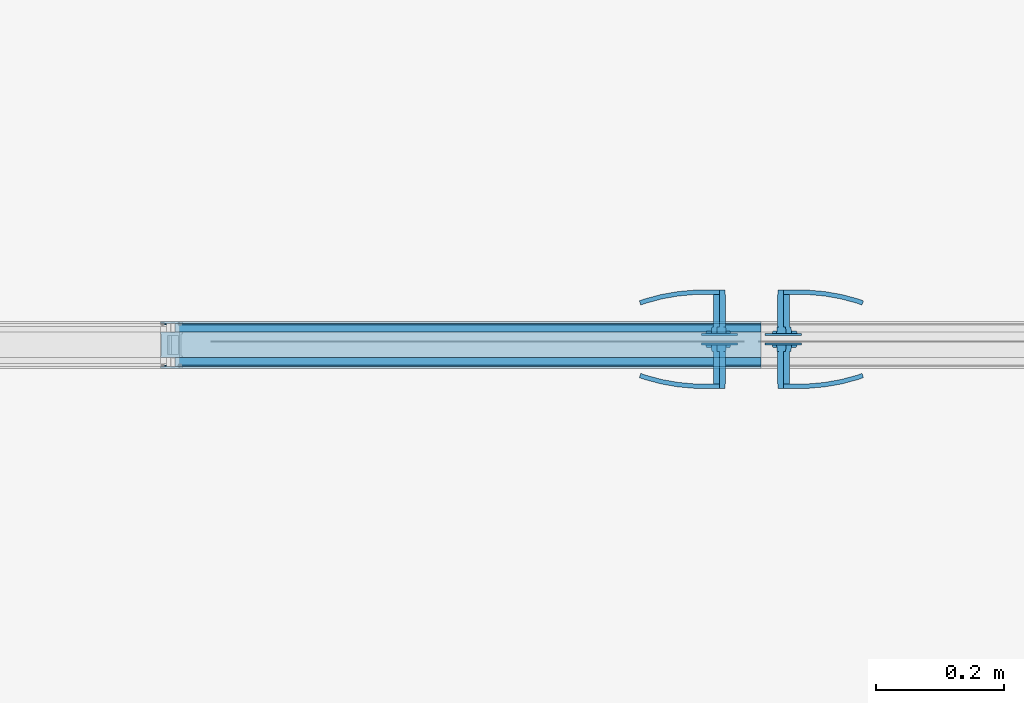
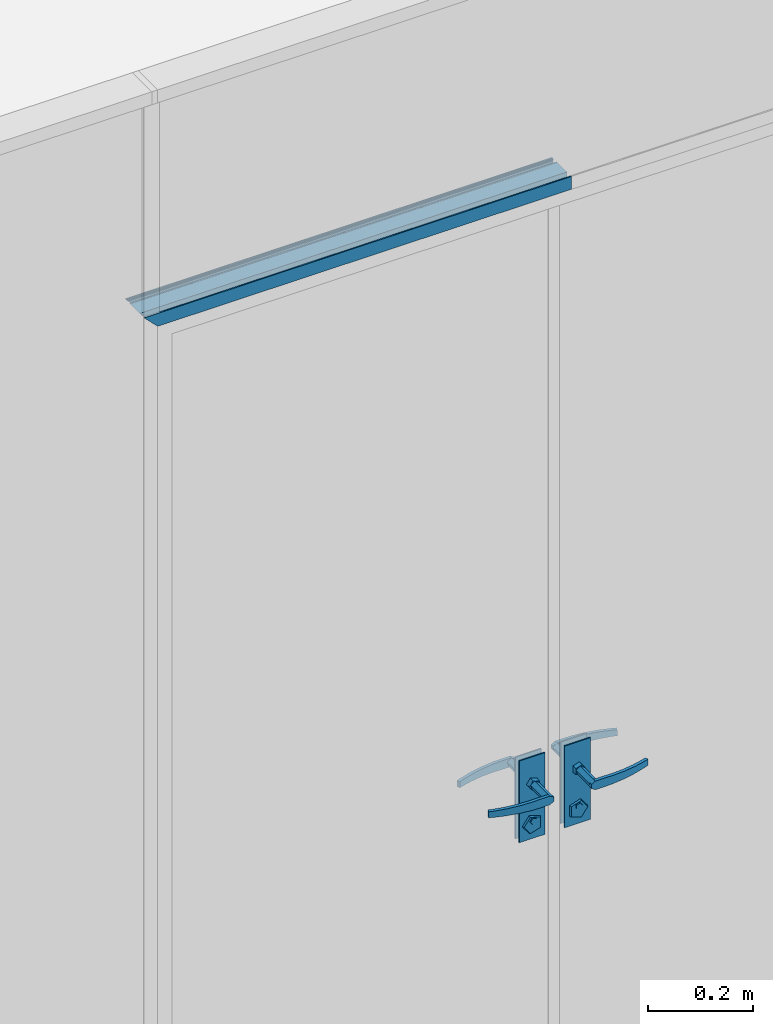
# One storey, part 52 of 62: 3 building element parts, 3 elements without a shape of their own.
"""IFC2X3 building model written with IfcOpenShell, lengths in millimetres."""

from ifc_helpers import new_model, entity, si_unit, converted_unit, derived_unit, money_unit, direction, frame, origin_with_axes, place, context, subcontext, project, spatial, open_shell, faceted_brep, surface_model, material, type_object, element, aggregate, save


model = new_model("IFC2X3")

# Units and contexts
model_context = context("Model", 3, precision=0.01, world=origin_with_axes(), true_north=direction((0.0, 1.0)))
body_context = subcontext(model_context, "Body", "Model", "MODEL_VIEW")
ifc_project = project(units=[si_unit("LENGTHUNIT", "METRE", prefix="MILLI"), si_unit("AREAUNIT", "SQUARE_METRE"), si_unit("VOLUMEUNIT", "CUBIC_METRE"), converted_unit("PLANEANGLEUNIT", "DEGREE", entity("IfcPlaneAngleMeasure", 0.0174532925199), si_unit("PLANEANGLEUNIT", "RADIAN"), dimensions=[0, 0, 0, 0, 0, 0, 0]), si_unit("SOLIDANGLEUNIT", "STERADIAN"), money_unit("EUR"), converted_unit("TIMEUNIT", "Year", entity("IfcTimeMeasure", 31556926.0), si_unit("TIMEUNIT", "SECOND"), dimensions=[0, 0, 1, 0, 0, 0, 0]), si_unit("MASSUNIT", "GRAM", prefix="KILO"), si_unit("THERMODYNAMICTEMPERATUREUNIT", "DEGREE_CELSIUS"), si_unit("LUMINOUSINTENSITYUNIT", "LUMEN"), si_unit("ENERGYUNIT", "JOULE", prefix="MEGA"), derived_unit("THERMALCONDUCTANCEUNIT", [(si_unit("POWERUNIT", "WATT"), 1), (si_unit("LENGTHUNIT", "METRE"), -1), (si_unit("THERMODYNAMICTEMPERATUREUNIT", "KELVIN"), -1)]), derived_unit("SPECIFICHEATCAPACITYUNIT", [(si_unit("ENERGYUNIT", "JOULE"), 1), (si_unit("MASSUNIT", "GRAM", prefix="KILO"), -1), (si_unit("THERMODYNAMICTEMPERATUREUNIT", "KELVIN"), -1)]), derived_unit("MASSDENSITYUNIT", [(si_unit("MASSUNIT", "GRAM", prefix="KILO"), 1), (si_unit("VOLUMEUNIT", "CUBIC_METRE"), -1)])], contexts=[model_context])

# Site, building, storey
site_placement = place(None, origin_with_axes())
site = spatial("IfcSite", under=ifc_project, at=site_placement, Name="Puškini 31, Narva", CompositionType="ELEMENT")
building_placement = place(site_placement, origin_with_axes())
building = spatial("IfcBuilding", under=site, at=building_placement, Name="Narva Riigigümnaasium", CompositionType="ELEMENT")
storey_placement = place(building_placement, frame((0.0, 0.0, 660.0), z_axis=(0.0, 0.0, 1.0), x_axis=(1.0, 0.0, 0.0)))
storey = spatial("IfcBuildingStorey", under=building, at=storey_placement, Name="2.korrus +0.66", CompositionType="ELEMENT", Elevation=660.0)

# Curtain wall, plate, building element parts, proxy
curtain_wall_type = type_object("IfcCurtainWallType", Name="Curtain Wall Type", PredefinedType="NOTDEFINED")
curtain_wall_placement = place(storey_placement, frame((41241.6, 223837.000007, -1.99739158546e-06), z_axis=(0.0, 0.0, 1.0), x_axis=(1.0, 0.0, 0.0)))
curtain_wall = element("IfcCurtainWall", 1, at=curtain_wall_placement, inside=storey, type_object=curtain_wall_type, Name="G-SKLF-53")
plate_type = type_object("IfcPlateType", Name="895 x 2365 x 10", PredefinedType="CURTAIN_PANEL")
plate_placement = place(curtain_wall_placement, frame((0.0, 0.0, 1200.0), z_axis=(0.0, 0.0, 1.0), x_axis=(-1.0, 0.0, 0.0)))
plate = element("IfcPlate", 2, at=plate_placement, type_object=plate_type, Name="G-SKLF-53-klaas", ObjectType="CURTAIN_PANEL")
ifc_material_1 = material(Name="ET-07_Teras - Roostevaba")
building_element_part_1_placement = place(plate_placement, origin_with_axes())
building_element_part_1 = element("IfcBuildingElementPart", 3, at=building_element_part_1_placement, material=ifc_material_1, Name="ET-07_Teras - Roostevaba", context=body_context, shape_type="SurfaceModel", body=[
    faceted_brep([(36.5000107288, -2.99999999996, -120.0), (93.5000107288, -2.99999999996, -120.0), (93.5000107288, 0.0, -120.0), (36.5000107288, 0.0, -120.0), (36.5000107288, -2.99999999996, -310.0), (93.5000107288, -2.99999999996, -310.0), (93.5000107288, 0.0, -310.0), (36.5000107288, 0.0, -310.0)], [[[0, 1, 2, 3]], [[0, 4, 5, 1]], [[1, 5, 6, 2]], [[3, 2, 6, 7]], [[4, 0, 3, 7]], [[5, 4, 7, 6]]]),
    surface_model("IfcShellBasedSurfaceModel", [(65.0000107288, 61.0, -190.0), (56.339756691, 61.0, -185.0), (56.339756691, 68.0, -185.0), (65.0000107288, 68.0, -190.0), (90.0000107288, 61.0, -190.0), (90.0000107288, 61.0, -170.0), (65.0000107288, 61.0, -170.0), (56.339756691, 61.0, -175.0), (56.339756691, 68.0, -175.0), (65.0000107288, 68.0, -170.0), (90.0000107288, 68.0, -170.0), (90.0000107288, 68.0, -190.0)], [open_shell([[[0, 1, 2, 3]], [[0, 4, 5, 6, 7, 1]], [[1, 7, 8, 2]], [[3, 2, 8, 9, 10, 11]], [[4, 0, 3, 11]], [[6, 5, 10, 9]], [[7, 6, 9, 8]]])]),
    surface_model("IfcShellBasedSurfaceModel", [(90.0000107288, 61.0, -170.0), (103.098293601, 61.0, -170.392699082), (103.403920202, 68.0, -170.392699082), (90.0000107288, 61.0, -190.0), (103.098293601, 61.0, -189.607300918), (130.109727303, 65.6635446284, -171.178097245), (90.0000107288, 68.0, -170.0), (90.0000107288, 68.0, -190.0), (129.195173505, 58.7168188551, -188.821902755), (129.195173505, 58.7168188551, -171.178097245), (130.109727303, 65.6635446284, -188.821902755), (103.403920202, 68.0, -189.607300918), (154.993754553, 54.1678329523, -188.036504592), (154.993754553, 54.1678329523, -171.963495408), (156.510275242, 61.0084157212, -171.963495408), (156.510275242, 61.0084157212, -188.036504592), (180.297693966, 47.3876628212, -187.251106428), (180.297693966, 47.3876628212, -172.748893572), (182.404639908, 54.0700416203, -172.748893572), (182.404639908, 54.0700416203, -187.251106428), (188.170568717, 44.5221707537, -187.0), (188.170568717, 44.5221707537, -173.0), (190.46121507, 51.1376880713, -173.0), (190.46121507, 51.1376880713, -187.0)], [open_shell([[[0, 1, 2]], [[0, 3, 4, 1]], [[1, 5, 2]], [[0, 2, 6]], [[4, 3, 7]], [[1, 4, 8, 9]], [[1, 9, 5]], [[2, 5, 10, 11]], [[6, 2, 11, 7]], [[4, 7, 11]], [[8, 4, 11]], [[9, 8, 12, 13]], [[9, 14, 5]], [[5, 14, 15, 10]], [[8, 11, 10]], [[12, 8, 10]], [[13, 12, 16, 17]], [[9, 13, 14]], [[14, 18, 19, 15]], [[12, 10, 15]], [[16, 12, 15]], [[17, 16, 20, 21]], [[13, 17, 18]], [[13, 18, 14]], [[18, 22, 23, 19]], [[16, 15, 19]], [[20, 16, 19]], [[21, 20, 23, 22]], [[17, 21, 22]], [[17, 22, 18]], [[20, 19, 23]]])]),
    faceted_brep([(68.7082146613, 10.0, -191.412678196), (77.0000107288, 10.0, -180.0), (78.0000107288, 0.0, -180.0), (69.0172316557, 0.0, -192.363734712), (55.2918067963, 10.0, -187.053423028), (55.2918067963, 10.0, -172.946576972), (68.7082146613, 10.0, -168.587321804), (69.0172316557, 0.0, -167.636265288), (54.482789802, 0.0, -172.35879172), (54.482789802, 0.0, -187.64120828)], [[[0, 1, 2, 3]], [[1, 0, 4, 5, 6]], [[1, 6, 7, 2]], [[2, 7, 8, 9, 3]], [[4, 0, 3, 9]], [[5, 4, 9, 8]], [[6, 5, 8, 7]]]),
    faceted_brep([(71.1803506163, 4.00000000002, -294.021130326), (85.0000107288, 4.00000000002, -275.0), (87.0000107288, 0.0, -275.0), (71.7983846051, 0.0, -295.923243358), (48.8196708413, 4.00000000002, -286.755705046), (48.8196708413, 4.00000000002, -263.244294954), (71.1803506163, 4.00000000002, -255.978869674), (71.7983846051, 0.0, -254.076756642), (47.2016368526, 0.0, -262.06872445), (47.2016368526, 0.0, -287.93127555)], [[[0, 1, 2, 3]], [[1, 0, 4, 5, 6]], [[1, 6, 7, 2]], [[2, 7, 8, 9, 3]], [[4, 0, 3, 9]], [[5, 4, 9, 8]], [[6, 5, 8, 7]]]),
    faceted_brep([(67.1631296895, 6.00000000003, -272.657395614), (72.0000107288, 6.00000000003, -266.0), (73.0000107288, 4.00000000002, -266.0), (67.4721466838, 4.00000000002, -273.60845213), (59.3368917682, 6.00000000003, -270.114496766), (59.3368917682, 6.00000000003, -261.885503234), (67.1631296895, 6.00000000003, -259.342604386), (67.4721466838, 4.00000000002, -258.39154787), (58.5278747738, 4.00000000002, -261.297717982), (58.5278747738, 4.00000000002, -270.702282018)], [[[0, 1, 2, 3]], [[1, 0, 4, 5, 6]], [[1, 6, 7, 2]], [[2, 7, 8, 9, 3]], [[4, 0, 3, 9]], [[5, 4, 9, 8]], [[6, 5, 8, 7]]]),
    faceted_brep([(65.0000107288, 10.0, -170.0), (74.5105758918, 10.0, -176.909830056), (74.5105758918, 61.0, -176.909830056), (65.0000107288, 61.0, -170.0), (55.4894455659, 10.0, -176.909830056), (59.1221582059, 10.0, -188.090169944), (70.8778632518, 10.0, -188.090169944), (70.8778632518, 61.0, -188.090169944), (59.1221582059, 61.0, -188.090169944), (55.4894455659, 61.0, -176.909830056)], [[[0, 1, 2, 3]], [[0, 4, 5, 6, 1]], [[1, 6, 7, 2]], [[3, 2, 7, 8, 9]], [[4, 0, 3, 9]], [[5, 4, 9, 8]], [[6, 5, 8, 7]]]),
    faceted_brep([(36.5000107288, -15.0, -120.0), (36.5000107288, -18.0, -120.0), (93.5000107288, -18.0, -120.0), (93.5000107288, -15.0, -120.0), (36.5000107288, -15.0, -310.0), (36.5000107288, -18.0, -310.0), (93.5000107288, -18.0, -310.0), (93.5000107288, -15.0, -310.0)], [[[0, 1, 2, 3]], [[4, 5, 1, 0]], [[1, 5, 6, 2]], [[3, 2, 6, 7]], [[0, 3, 7, 4]], [[7, 6, 5, 4]]]),
    surface_model("IfcShellBasedSurfaceModel", [(65.0000107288, -79.0, -190.0), (65.0000107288, -86.0, -190.0), (56.339756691, -86.0, -185.0), (56.339756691, -79.0, -185.0), (90.0000107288, -79.0, -190.0), (90.0000107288, -86.0, -190.0), (90.0000107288, -86.0, -170.0), (65.0000107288, -86.0, -170.0), (56.339756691, -86.0, -175.0), (56.339756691, -79.0, -175.0), (65.0000107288, -79.0, -170.0), (90.0000107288, -79.0, -170.0)], [open_shell([[[0, 1, 2, 3]], [[4, 5, 1, 0]], [[1, 5, 6, 7, 8, 2]], [[3, 2, 8, 9]], [[0, 3, 9, 10, 11, 4]], [[10, 7, 6, 11]], [[9, 8, 7, 10]]])]),
    surface_model("IfcShellBasedSurfaceModel", [(90.0000107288, -79.0, -170.0), (103.403920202, -86.0, -170.392699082), (103.098293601, -79.0, -170.392699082), (90.0000107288, -86.0, -170.0), (130.109727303, -83.6635446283, -171.178097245), (103.098293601, -79.0, -189.607300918), (90.0000107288, -79.0, -190.0), (90.0000107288, -86.0, -190.0), (103.403920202, -86.0, -189.607300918), (130.109727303, -83.6635446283, -188.821902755), (129.195173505, -76.716818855, -171.178097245), (129.195173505, -76.716818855, -188.821902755), (156.510275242, -79.0084157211, -188.036504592), (156.510275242, -79.0084157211, -171.963495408), (154.993754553, -72.1678329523, -171.963495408), (154.993754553, -72.1678329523, -188.036504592), (182.404639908, -72.0700416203, -187.251106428), (182.404639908, -72.0700416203, -172.748893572), (180.297693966, -65.3876628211, -172.748893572), (180.297693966, -65.3876628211, -187.251106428), (190.46121507, -69.1376880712, -187.0), (190.46121507, -69.1376880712, -173.0), (188.170568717, -62.5221707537, -173.0), (188.170568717, -62.5221707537, -187.0)], [open_shell([[[0, 1, 2]], [[0, 3, 1]], [[2, 1, 4]], [[0, 2, 5, 6]], [[3, 7, 8, 1]], [[1, 8, 9, 4]], [[2, 4, 10]], [[2, 10, 11, 5]], [[5, 7, 6]], [[5, 8, 7]], [[11, 9, 8]], [[4, 9, 12, 13]], [[10, 4, 13]], [[10, 14, 15, 11]], [[11, 8, 5]], [[15, 9, 11]], [[15, 12, 9]], [[13, 12, 16, 17]], [[10, 13, 14]], [[14, 18, 19, 15]], [[19, 12, 15]], [[19, 16, 12]], [[17, 16, 20, 21]], [[14, 13, 17]], [[14, 17, 18]], [[18, 22, 23, 19]], [[23, 16, 19]], [[23, 20, 16]], [[22, 21, 20, 23]], [[18, 17, 21]], [[18, 21, 22]]])]),
    faceted_brep([(68.7082146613, -28.0, -191.412678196), (69.0172316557, -18.0, -192.363734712), (78.0000107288, -18.0, -180.0), (77.0000107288, -28.0, -180.0), (55.2918067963, -28.0, -187.053423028), (54.482789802, -18.0, -187.64120828), (54.482789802, -18.0, -172.35879172), (69.0172316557, -18.0, -167.636265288), (68.7082146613, -28.0, -168.587321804), (55.2918067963, -28.0, -172.946576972)], [[[0, 1, 2, 3]], [[4, 5, 1, 0]], [[2, 1, 5, 6, 7]], [[3, 2, 7, 8]], [[3, 8, 9, 4, 0]], [[9, 6, 5, 4]], [[8, 7, 6, 9]]]),
    faceted_brep([(71.1803506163, -22.0, -294.021130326), (71.7983846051, -18.0, -295.923243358), (87.0000107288, -18.0, -275.0), (85.0000107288, -22.0, -275.0), (48.8196708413, -22.0, -286.755705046), (47.2016368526, -18.0, -287.93127555), (47.2016368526, -18.0, -262.06872445), (71.7983846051, -18.0, -254.076756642), (71.1803506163, -22.0, -255.978869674), (48.8196708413, -22.0, -263.244294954)], [[[0, 1, 2, 3]], [[4, 5, 1, 0]], [[2, 1, 5, 6, 7]], [[3, 2, 7, 8]], [[3, 8, 9, 4, 0]], [[9, 6, 5, 4]], [[8, 7, 6, 9]]]),
    faceted_brep([(67.1631296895, -24.0, -272.657395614), (67.4721466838, -22.0, -273.60845213), (73.0000107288, -22.0, -266.0), (72.0000107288, -24.0, -266.0), (59.3368917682, -24.0, -270.114496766), (58.5278747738, -22.0, -270.702282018), (58.5278747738, -22.0, -261.297717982), (67.4721466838, -22.0, -258.39154787), (67.1631296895, -24.0, -259.342604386), (59.3368917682, -24.0, -261.885503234)], [[[0, 1, 2, 3]], [[4, 5, 1, 0]], [[2, 1, 5, 6, 7]], [[3, 2, 7, 8]], [[3, 8, 9, 4, 0]], [[9, 6, 5, 4]], [[8, 7, 6, 9]]]),
    faceted_brep([(65.0000107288, -28.0, -170.0), (65.0000107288, -79.0, -170.0), (74.5105758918, -79.0, -176.909830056), (74.5105758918, -28.0, -176.909830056), (55.4894455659, -28.0, -176.909830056), (55.4894455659, -79.0, -176.909830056), (59.1221582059, -79.0, -188.090169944), (70.8778632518, -79.0, -188.090169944), (70.8778632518, -28.0, -188.090169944), (59.1221582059, -28.0, -188.090169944)], [[[0, 1, 2, 3]], [[4, 5, 1, 0]], [[1, 5, 6, 7, 2]], [[3, 2, 7, 8]], [[0, 3, 8, 9, 4]], [[9, 6, 5, 4]], [[8, 7, 6, 9]]]),
    faceted_brep([(-6.49998927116, -2.99999999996, -120.0), (-6.49998927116, 0.0, -120.0), (-63.4999892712, 0.0, -120.0), (-63.4999892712, -2.99999999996, -120.0), (-6.49998927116, -2.99999999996, -310.0), (-6.49998927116, 0.0, -310.0), (-63.4999892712, 0.0, -310.0), (-63.4999892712, -2.99999999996, -310.0)], [[[0, 1, 2, 3]], [[4, 5, 1, 0]], [[1, 5, 6, 2]], [[3, 2, 6, 7]], [[0, 3, 7, 4]], [[7, 6, 5, 4]]]),
    surface_model("IfcShellBasedSurfaceModel", [(-34.9999892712, 61.0, -190.0), (-34.9999892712, 68.0, -190.0), (-26.3397352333, 68.0, -185.0), (-26.3397352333, 61.0, -185.0), (-59.9999892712, 61.0, -190.0), (-59.9999892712, 68.0, -190.0), (-59.9999892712, 68.0, -170.0), (-34.9999892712, 68.0, -170.0), (-26.3397352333, 68.0, -175.0), (-26.3397352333, 61.0, -175.0), (-34.9999892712, 61.0, -170.0), (-59.9999892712, 61.0, -170.0)], [open_shell([[[0, 1, 2, 3]], [[4, 5, 1, 0]], [[1, 5, 6, 7, 8, 2]], [[3, 2, 8, 9]], [[0, 3, 9, 10, 11, 4]], [[10, 7, 6, 11]], [[9, 8, 7, 10]]])]),
    surface_model("IfcShellBasedSurfaceModel", [(-59.9999892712, 61.0, -170.0), (-73.4038987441, 68.0, -170.392699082), (-73.0982721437, 61.0, -170.392699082), (-59.9999892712, 68.0, -170.0), (-100.109705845, 65.6635446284, -171.178097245), (-73.0982721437, 61.0, -189.607300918), (-59.9999892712, 61.0, -190.0), (-59.9999892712, 68.0, -190.0), (-73.4038987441, 68.0, -189.607300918), (-100.109705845, 65.6635446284, -188.821902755), (-99.1951520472, 58.7168188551, -171.178097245), (-99.1951520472, 58.7168188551, -188.821902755), (-126.510253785, 61.0084157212, -188.036504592), (-126.510253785, 61.0084157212, -171.963495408), (-124.993733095, 54.1678329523, -171.963495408), (-124.993733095, 54.1678329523, -188.036504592), (-152.404618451, 54.0700416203, -187.251106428), (-152.404618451, 54.0700416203, -172.748893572), (-150.297672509, 47.3876628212, -172.748893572), (-150.297672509, 47.3876628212, -187.251106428), (-160.461193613, 51.1376880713, -187.0), (-160.461193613, 51.1376880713, -173.0), (-158.17054726, 44.5221707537, -173.0), (-158.17054726, 44.5221707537, -187.0)], [open_shell([[[0, 1, 2]], [[0, 3, 1]], [[2, 1, 4]], [[0, 2, 5, 6]], [[3, 7, 8, 1]], [[1, 8, 9, 4]], [[2, 4, 10]], [[2, 10, 11, 5]], [[5, 7, 6]], [[5, 8, 7]], [[11, 9, 8]], [[4, 9, 12, 13]], [[10, 4, 13]], [[10, 14, 15, 11]], [[11, 8, 5]], [[15, 9, 11]], [[15, 12, 9]], [[13, 12, 16, 17]], [[10, 13, 14]], [[14, 18, 19, 15]], [[19, 12, 15]], [[19, 16, 12]], [[17, 16, 20, 21]], [[14, 13, 17]], [[14, 17, 18]], [[18, 22, 23, 19]], [[23, 16, 19]], [[23, 20, 16]], [[22, 21, 20, 23]], [[18, 17, 21]], [[18, 21, 22]]])]),
    faceted_brep([(-38.7081932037, 10.0, -191.412678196), (-39.017210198, 0.0, -192.363734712), (-47.9999892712, 0.0, -180.0), (-46.9999892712, 10.0, -180.0), (-25.2917853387, 10.0, -187.053423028), (-24.4827683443, 0.0, -187.64120828), (-24.4827683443, 0.0, -172.35879172), (-39.017210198, 0.0, -167.636265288), (-38.7081932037, 10.0, -168.587321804), (-25.2917853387, 10.0, -172.946576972)], [[[0, 1, 2, 3]], [[4, 5, 1, 0]], [[2, 1, 5, 6, 7]], [[3, 2, 7, 8]], [[3, 8, 9, 4, 0]], [[9, 6, 5, 4]], [[8, 7, 6, 9]]]),
    faceted_brep([(-41.1803291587, 4.00000000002, -294.021130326), (-41.7983631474, 0.0, -295.923243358), (-56.9999892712, 0.0, -275.0), (-54.9999892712, 4.00000000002, -275.0), (-18.8196493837, 4.00000000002, -286.755705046), (-17.2016153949, 0.0, -287.93127555), (-17.2016153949, 0.0, -262.06872445), (-41.7983631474, 0.0, -254.076756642), (-41.1803291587, 4.00000000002, -255.978869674), (-18.8196493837, 4.00000000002, -263.244294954)], [[[0, 1, 2, 3]], [[4, 5, 1, 0]], [[2, 1, 5, 6, 7]], [[3, 2, 7, 8]], [[3, 8, 9, 4, 0]], [[9, 6, 5, 4]], [[8, 7, 6, 9]]]),
    faceted_brep([(-37.1631082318, 6.00000000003, -272.657395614), (-37.4721252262, 4.00000000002, -273.60845213), (-42.9999892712, 4.00000000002, -266.0), (-41.9999892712, 6.00000000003, -266.0), (-29.3368703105, 6.00000000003, -270.114496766), (-28.5278533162, 4.00000000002, -270.702282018), (-28.5278533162, 4.00000000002, -261.297717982), (-37.4721252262, 4.00000000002, -258.39154787), (-37.1631082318, 6.00000000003, -259.342604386), (-29.3368703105, 6.00000000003, -261.885503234)], [[[0, 1, 2, 3]], [[4, 5, 1, 0]], [[2, 1, 5, 6, 7]], [[3, 2, 7, 8]], [[3, 8, 9, 4, 0]], [[9, 6, 5, 4]], [[8, 7, 6, 9]]]),
    faceted_brep([(-34.9999892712, 10.0, -170.0), (-34.9999892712, 61.0, -170.0), (-44.5105544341, 61.0, -176.909830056), (-44.5105544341, 10.0, -176.909830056), (-25.4894241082, 10.0, -176.909830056), (-25.4894241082, 61.0, -176.909830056), (-29.1221367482, 61.0, -188.090169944), (-40.8778417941, 61.0, -188.090169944), (-40.8778417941, 10.0, -188.090169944), (-29.1221367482, 10.0, -188.090169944)], [[[0, 1, 2, 3]], [[4, 5, 1, 0]], [[1, 5, 6, 7, 2]], [[3, 2, 7, 8]], [[0, 3, 8, 9, 4]], [[9, 6, 5, 4]], [[8, 7, 6, 9]]]),
    faceted_brep([(-6.49998927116, -15.0, -120.0), (-63.4999892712, -15.0, -120.0), (-63.4999892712, -18.0, -120.0), (-6.49998927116, -18.0, -120.0), (-6.49998927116, -15.0, -310.0), (-63.4999892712, -15.0, -310.0), (-63.4999892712, -18.0, -310.0), (-6.49998927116, -18.0, -310.0)], [[[0, 1, 2, 3]], [[0, 4, 5, 1]], [[1, 5, 6, 2]], [[3, 2, 6, 7]], [[4, 0, 3, 7]], [[5, 4, 7, 6]]]),
    surface_model("IfcShellBasedSurfaceModel", [(-34.9999892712, -79.0, -190.0), (-26.3397352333, -79.0, -185.0), (-26.3397352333, -86.0, -185.0), (-34.9999892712, -86.0, -190.0), (-59.9999892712, -79.0, -190.0), (-59.9999892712, -79.0, -170.0), (-34.9999892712, -79.0, -170.0), (-26.3397352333, -79.0, -175.0), (-26.3397352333, -86.0, -175.0), (-34.9999892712, -86.0, -170.0), (-59.9999892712, -86.0, -170.0), (-59.9999892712, -86.0, -190.0)], [open_shell([[[0, 1, 2, 3]], [[0, 4, 5, 6, 7, 1]], [[1, 7, 8, 2]], [[3, 2, 8, 9, 10, 11]], [[4, 0, 3, 11]], [[6, 5, 10, 9]], [[7, 6, 9, 8]]])]),
    surface_model("IfcShellBasedSurfaceModel", [(-59.9999892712, -79.0, -170.0), (-73.0982721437, -79.0, -170.392699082), (-73.4038987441, -86.0, -170.392699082), (-59.9999892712, -79.0, -190.0), (-73.0982721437, -79.0, -189.607300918), (-100.109705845, -83.6635446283, -171.178097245), (-59.9999892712, -86.0, -170.0), (-59.9999892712, -86.0, -190.0), (-99.1951520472, -76.716818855, -188.821902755), (-99.1951520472, -76.716818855, -171.178097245), (-100.109705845, -83.6635446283, -188.821902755), (-73.4038987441, -86.0, -189.607300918), (-124.993733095, -72.1678329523, -188.036504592), (-124.993733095, -72.1678329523, -171.963495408), (-126.510253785, -79.0084157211, -171.963495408), (-126.510253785, -79.0084157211, -188.036504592), (-150.297672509, -65.3876628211, -187.251106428), (-150.297672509, -65.3876628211, -172.748893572), (-152.404618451, -72.0700416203, -172.748893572), (-152.404618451, -72.0700416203, -187.251106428), (-158.17054726, -62.5221707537, -187.0), (-158.17054726, -62.5221707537, -173.0), (-160.461193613, -69.1376880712, -173.0), (-160.461193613, -69.1376880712, -187.0)], [open_shell([[[0, 1, 2]], [[0, 3, 4, 1]], [[1, 5, 2]], [[0, 2, 6]], [[4, 3, 7]], [[1, 4, 8, 9]], [[1, 9, 5]], [[2, 5, 10, 11]], [[6, 2, 11, 7]], [[4, 7, 11]], [[8, 4, 11]], [[9, 8, 12, 13]], [[9, 14, 5]], [[5, 14, 15, 10]], [[8, 11, 10]], [[12, 8, 10]], [[13, 12, 16, 17]], [[9, 13, 14]], [[14, 18, 19, 15]], [[12, 10, 15]], [[16, 12, 15]], [[17, 16, 20, 21]], [[13, 17, 18]], [[13, 18, 14]], [[18, 22, 23, 19]], [[16, 15, 19]], [[20, 16, 19]], [[21, 20, 23, 22]], [[17, 21, 22]], [[17, 22, 18]], [[20, 19, 23]]])]),
    faceted_brep([(-38.7081932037, -28.0, -191.412678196), (-46.9999892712, -28.0, -180.0), (-47.9999892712, -18.0, -180.0), (-39.017210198, -18.0, -192.363734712), (-25.2917853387, -28.0, -187.053423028), (-25.2917853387, -28.0, -172.946576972), (-38.7081932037, -28.0, -168.587321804), (-39.017210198, -18.0, -167.636265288), (-24.4827683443, -18.0, -172.35879172), (-24.4827683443, -18.0, -187.64120828)], [[[0, 1, 2, 3]], [[1, 0, 4, 5, 6]], [[1, 6, 7, 2]], [[2, 7, 8, 9, 3]], [[4, 0, 3, 9]], [[5, 4, 9, 8]], [[6, 5, 8, 7]]]),
    faceted_brep([(-41.1803291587, -22.0, -294.021130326), (-54.9999892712, -22.0, -275.0), (-56.9999892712, -18.0, -275.0), (-41.7983631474, -18.0, -295.923243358), (-18.8196493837, -22.0, -286.755705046), (-18.8196493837, -22.0, -263.244294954), (-41.1803291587, -22.0, -255.978869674), (-41.7983631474, -18.0, -254.076756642), (-17.2016153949, -18.0, -262.06872445), (-17.2016153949, -18.0, -287.93127555)], [[[0, 1, 2, 3]], [[1, 0, 4, 5, 6]], [[1, 6, 7, 2]], [[2, 7, 8, 9, 3]], [[4, 0, 3, 9]], [[5, 4, 9, 8]], [[6, 5, 8, 7]]]),
    faceted_brep([(-37.1631082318, -24.0, -272.657395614), (-41.9999892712, -24.0, -266.0), (-42.9999892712, -22.0, -266.0), (-37.4721252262, -22.0, -273.60845213), (-29.3368703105, -24.0, -270.114496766), (-29.3368703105, -24.0, -261.885503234), (-37.1631082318, -24.0, -259.342604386), (-37.4721252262, -22.0, -258.39154787), (-28.5278533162, -22.0, -261.297717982), (-28.5278533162, -22.0, -270.702282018)], [[[0, 1, 2, 3]], [[1, 0, 4, 5, 6]], [[1, 6, 7, 2]], [[2, 7, 8, 9, 3]], [[4, 0, 3, 9]], [[5, 4, 9, 8]], [[6, 5, 8, 7]]]),
    faceted_brep([(-34.9999892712, -28.0, -170.0), (-44.5105544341, -28.0, -176.909830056), (-44.5105544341, -79.0, -176.909830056), (-34.9999892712, -79.0, -170.0), (-25.4894241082, -28.0, -176.909830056), (-29.1221367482, -28.0, -188.090169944), (-40.8778417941, -28.0, -188.090169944), (-40.8778417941, -79.0, -188.090169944), (-29.1221367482, -79.0, -188.090169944), (-25.4894241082, -79.0, -176.909830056)], [[[0, 1, 2, 3]], [[0, 4, 5, 6, 1]], [[1, 6, 7, 2]], [[3, 2, 7, 8, 9]], [[4, 0, 3, 9]], [[5, 4, 9, 8]], [[6, 5, 8, 7]]]),
])
aggregate(plate, [building_element_part_1])
building_element_proxy_type = type_object("IfcBuildingElementProxyType", Name="30 x 27", PredefinedType="NOTDEFINED")
proxy_placement = place(curtain_wall_placement, frame((-910.4, 0.0, 2400.0), z_axis=(1.0, 0.0, 0.0), x_axis=(0.0, 0.0, 1.0)))
proxy = element("IfcBuildingElementProxy", 4, at=proxy_placement, type_object=building_element_proxy_type, Name="RF PÜSTRAAM-324")
aggregate(curtain_wall, [plate, proxy])
ifc_material_2 = material(Name="Klaasvill")
building_element_part_2_placement = place(proxy_placement, origin_with_axes())
building_element_part_2 = element("IfcBuildingElementPart", 5, at=building_element_part_2_placement, material=ifc_material_2, Name="Klaasvill", context=body_context, shape_type="Brep", body=[
    faceted_brep([(13.8499999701, -20.000000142, -13.8499999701), (7.49999990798, -20.000000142, -7.49999990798), (7.49999990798, -20.000000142, 910.4), (13.8499999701, -20.000000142, 910.4), (13.8499999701, -34.0161444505, -13.8499999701), (7.49999990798, -34.0161444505, -7.49999990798), (7.49999990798, -34.0161444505, 910.4), (13.8499999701, -34.0161444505, 910.4)], [[[0, 1, 2, 3]], [[1, 0, 4, 5]], [[1, 5, 6, 2]], [[2, 6, 7, 3]], [[4, 0, 3, 7]], [[5, 4, 7, 6]]]),
    faceted_brep([(25.004489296, -32.0307503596, -25.004489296), (24.987414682, -34.0161444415, -24.987414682), (24.987414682, -34.0161444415, 910.4), (25.004489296, -32.0307503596, 910.4), (25.742237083, -31.2930025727, -25.742237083), (26.7500193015, -31.0229681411, -26.7500193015), (27.75780152, -31.2930025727, -27.75780152), (28.4955493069, -32.0307503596, -28.4955493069), (28.7655837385, -33.0385325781, -28.7655837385), (28.5126239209, -34.0161444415, -28.5126239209), (28.5126239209, -34.0161444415, 910.4), (28.7655837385, -33.0385325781, 910.4), (28.4955493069, -32.0307503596, 910.4), (27.75780152, -31.2930025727, 910.4), (26.7500193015, -31.0229681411, 910.4), (25.742237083, -31.2930025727, 910.4)], [[[0, 1, 2, 3]], [[1, 0, 4, 5, 6, 7, 8, 9]], [[1, 9, 10, 2]], [[2, 10, 11, 12, 13, 14, 15, 3]], [[4, 0, 3, 15]], [[5, 4, 15, 14]], [[6, 5, 14, 13]], [[7, 6, 13, 12]], [[8, 7, 12, 11]], [[9, 8, 11, 10]]]),
    faceted_brep([(7.49999990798, 34.0161445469, -7.49999990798), (7.49999990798, 19.9999997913, -7.49999990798), (7.49999990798, 19.9999997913, 910.4), (7.49999990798, 34.0161445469, 910.4), (13.8499999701, 34.0161445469, -13.8499999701), (13.8499999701, 19.9999997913, -13.8499999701), (13.8499999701, 19.9999997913, 910.4), (13.8499999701, 34.0161445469, 910.4)], [[[0, 1, 2, 3]], [[1, 0, 4, 5]], [[1, 5, 6, 2]], [[2, 6, 7, 3]], [[4, 0, 3, 7]], [[5, 4, 7, 6]]]),
    faceted_brep([(24.987414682, 34.0161444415, -24.987414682), (25.004489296, 32.0307503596, -25.004489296), (25.004489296, 32.0307503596, 910.4), (24.987414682, 34.0161444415, 910.4), (28.5126239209, 34.0161444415, -28.5126239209), (28.7655837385, 33.0385325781, -28.7655837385), (28.4955493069, 32.0307503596, -28.4955493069), (27.75780152, 31.2930025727, -27.75780152), (26.7500193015, 31.0229681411, -26.7500193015), (25.742237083, 31.2930025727, -25.742237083), (25.742237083, 31.2930025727, 910.4), (26.7500193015, 31.0229681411, 910.4), (27.75780152, 31.2930025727, 910.4), (28.4955493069, 32.0307503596, 910.4), (28.7655837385, 33.0385325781, 910.4), (28.5126239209, 34.0161444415, 910.4)], [[[0, 1, 2, 3]], [[1, 0, 4, 5, 6, 7, 8, 9]], [[1, 9, 10, 2]], [[2, 10, 11, 12, 13, 14, 15, 3]], [[4, 0, 3, 15]], [[5, 4, 15, 14]], [[6, 5, 14, 13]], [[7, 6, 13, 12]], [[8, 7, 12, 11]], [[9, 8, 11, 10]]]),
])
ifc_material_3 = material(Name="Teras RAL7012")
building_element_part_3_placement = place(proxy_placement, origin_with_axes())
building_element_part_3 = element("IfcBuildingElementPart", 6, at=building_element_part_3_placement, material=ifc_material_3, Name="Teras RAL7012", context=body_context, shape_type="Brep", body=[
    faceted_brep([(29.5999996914, 17.0000000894, -29.5999996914), (0.0, 17.0000000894, 0.0), (0.0, 17.0000000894, 910.4), (29.5999996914, 17.0000000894, 910.4), (29.5999996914, -17.0000000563, -29.5999996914), (0.0, -17.0000000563, 0.0), (1.9999999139, -15.0000001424, -1.99999991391), (18.7999996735, -15.0000001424, -18.7999996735), (18.7999996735, 15.0000001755, -18.7999996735), (1.9999999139, 15.0000001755, -1.99999991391), (0.0, -17.0000000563, 910.4), (29.5999996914, -17.0000000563, 910.4), (1.9999999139, -15.0000001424, 910.4), (1.9999999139, 15.0000001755, 910.4), (18.7999996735, 15.0000001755, 910.4), (18.7999996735, -15.0000001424, 910.4)], [[[0, 1, 2, 3]], [[1, 0, 4, 5], [6, 7, 8, 9]], [[1, 5, 10, 2]], [[2, 10, 11, 3], [12, 13, 14, 15]], [[4, 0, 3, 11]], [[5, 4, 11, 10]], [[7, 6, 12, 15]], [[8, 7, 15, 14]], [[9, 8, 14, 13]], [[6, 9, 13, 12]]]),
    faceted_brep([(30.0000193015, -17.0, 910.4), (30.0000193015, -17.0, -30.0000193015), (29.5999996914, -17.0000000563, -29.5999996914), (29.5999996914, -17.0000000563, 910.4), (30.0000193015, -20.0, 910.4), (30.0000193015, -20.0, -30.0000193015), (13.8499999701, -20.000000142, -13.8499999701), (7.49999999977, -20.0, -7.49999999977), (7.49999999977, -34.0161444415, -7.49999999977), (13.8499999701, -34.0161444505, -13.8499999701), (24.987414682, -34.0161444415, -24.987414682), (28.5126239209, -34.0161444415, -28.5126239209), (30.0000193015, -34.0161444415, -30.0000193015), (30.0000193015, -37.0, -30.0000193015), (0.0, -37.0, 0.0), (0.0, -17.0, 0.0), (0.0, -17.0, 910.4), (0.0, -37.0, 910.4), (30.0000193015, -37.0, 910.4), (30.0000193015, -34.0161444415, 910.4), (28.5126239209, -34.0161444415, 910.4), (24.987414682, -34.0161444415, 910.4), (13.8499999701, -34.0161444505, 910.4), (7.49999999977, -34.0161444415, 910.4), (7.49999999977, -20.0, 910.4), (13.8499999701, -20.000000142, 910.4)], [[[0, 1, 2, 3]], [[1, 0, 4, 5]], [[1, 5, 6, 7, 8, 9, 10, 11, 12, 13, 14, 15, 2]], [[3, 2, 15, 16]], [[0, 3, 16, 17, 18, 19, 20, 21, 22, 23, 24, 25, 4]], [[5, 4, 25, 6]], [[6, 25, 24, 7]], [[24, 23, 8, 7]], [[22, 9, 8, 23]], [[22, 21, 10, 9]], [[21, 20, 11, 10]], [[19, 12, 11, 20]], [[12, 19, 18, 13]], [[13, 18, 17, 14]], [[16, 15, 14, 17]]]),
    faceted_brep([(30.0000193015, 34.0161444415, -30.0000193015), (30.0000193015, 34.0161444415, 910.4), (28.5126239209, 34.0161444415, 910.4), (28.5126239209, 34.0161444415, -28.5126239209), (30.0000193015, 37.0, -30.0000193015), (30.0000193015, 37.0, 910.4), (0.0, 37.0, 910.4), (0.0, 17.0, 910.4), (29.5999996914, 17.0000000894, 910.4), (30.0000193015, 17.0, 910.4), (30.0000193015, 20.0, 910.4), (13.8499999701, 19.9999997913, 910.4), (7.49999999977, 20.0, 910.4), (7.49999999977, 34.0161444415, 910.4), (13.8499999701, 34.0161445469, 910.4), (24.987414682, 34.0161444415, 910.4), (24.987414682, 34.0161444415, -24.987414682), (13.8499999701, 34.0161445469, -13.8499999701), (7.49999999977, 34.0161444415, -7.49999999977), (7.49999999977, 20.0, -7.49999999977), (13.8499999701, 19.9999997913, -13.8499999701), (30.0000193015, 20.0, -30.0000193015), (30.0000193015, 17.0, -30.0000193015), (29.5999996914, 17.0000000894, -29.5999996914), (0.0, 17.0, 0.0), (0.0, 37.0, 0.0)], [[[0, 1, 2, 3]], [[0, 4, 5, 1]], [[1, 5, 6, 7, 8, 9, 10, 11, 12, 13, 14, 15, 2]], [[2, 15, 16, 3]], [[4, 0, 3, 16, 17, 18, 19, 20, 21, 22, 23, 24, 25]], [[5, 4, 25, 6]], [[6, 25, 24, 7]], [[8, 7, 24, 23]], [[22, 9, 8, 23]], [[22, 21, 10, 9]], [[10, 21, 20, 11]], [[11, 20, 19, 12]], [[13, 12, 19, 18]], [[14, 13, 18, 17]], [[15, 14, 17, 16]]]),
])
aggregate(proxy, [building_element_part_2, building_element_part_3])

save(model, "model.ifc")
